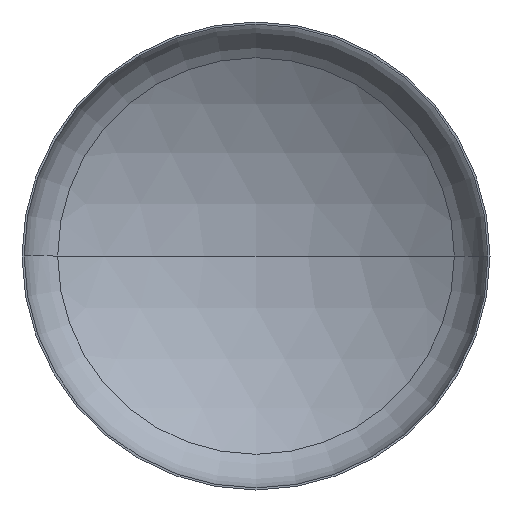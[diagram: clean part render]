
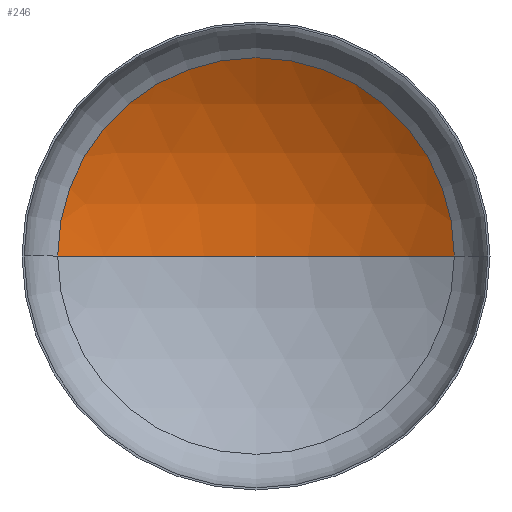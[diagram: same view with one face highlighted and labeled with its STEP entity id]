
A CAD part, front view. The second image highlights one B-rep face of the part: STEP entity #246.
In plain terms, the highlighted spherical face has radius 1440 mm.
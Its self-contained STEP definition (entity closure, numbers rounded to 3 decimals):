
#7 = AXIS2_PLACEMENT_3D ( 'NONE', #372, #230, #393 ) ;
#21 = EDGE_LOOP ( 'NONE', ( #192, #121, #92 ) ) ;
#22 = AXIS2_PLACEMENT_3D ( 'NONE', #364, #276, #168 ) ;
#29 = VERTEX_POINT ( 'NONE', #254 ) ;
#48 = VERTEX_POINT ( 'NONE', #345 ) ;
#81 = VERTEX_POINT ( 'NONE', #242 ) ;
#82 = AXIS2_PLACEMENT_3D ( 'NONE', #193, #187, #247 ) ;
#92 = ORIENTED_EDGE ( 'NONE', *, *, #376, .T. ) ;
#121 = ORIENTED_EDGE ( 'NONE', *, *, #374, .T. ) ;
#148 = AXIS2_PLACEMENT_3D ( 'NONE', #321, #323, #177 ) ;
#151 = CIRCLE ( 'NONE', #148, 762.644 ) ;
#154 = CIRCLE ( 'NONE', #22, 1440. ) ;
#166 = FACE_OUTER_BOUND ( 'NONE', #21, .T. ) ;
#168 = DIRECTION ( 'NONE',  ( 1., 0., 0. ) ) ;
#177 = DIRECTION ( 'NONE',  ( 1., 0., 0. ) ) ;
#187 = DIRECTION ( 'NONE',  ( 0., 0., -1. ) ) ;
#192 = ORIENTED_EDGE ( 'NONE', *, *, #354, .F. ) ;
#193 = CARTESIAN_POINT ( 'NONE',  ( 0., -963.198, 0. ) ) ;
#230 = DIRECTION ( 'NONE',  ( 0., 0., -1. ) ) ;
#242 = CARTESIAN_POINT ( 'NONE',  ( 0., 476.802, 0. ) ) ;
#246 = ADVANCED_FACE ( 'NONE', ( #166 ), #406, .F. ) ;
#247 = DIRECTION ( 'NONE',  ( -1., 0., 0. ) ) ;
#254 = CARTESIAN_POINT ( 'NONE',  ( 762.644, 258.266, 0. ) ) ;
#276 = DIRECTION ( 'NONE',  ( 0., 0., 1. ) ) ;
#321 = CARTESIAN_POINT ( 'NONE',  ( 0., 258.266, 0. ) ) ;
#323 = DIRECTION ( 'NONE',  ( 0., -1., 0. ) ) ;
#337 = CIRCLE ( 'NONE', #7, 1440. ) ;
#345 = CARTESIAN_POINT ( 'NONE',  ( -762.644, 258.266, 0. ) ) ;
#354 = EDGE_CURVE ( 'NONE', #81, #48, #154, .T. ) ;
#364 = CARTESIAN_POINT ( 'NONE',  ( 0., -963.198, 0. ) ) ;
#372 = CARTESIAN_POINT ( 'NONE',  ( 0., -963.198, 0. ) ) ;
#374 = EDGE_CURVE ( 'NONE', #81, #29, #337, .T. ) ;
#376 = EDGE_CURVE ( 'NONE', #29, #48, #151, .T. ) ;
#393 = DIRECTION ( 'NONE',  ( -1., 0., 0. ) ) ;
#406 = SPHERICAL_SURFACE ( 'NONE', #82, 1440. ) ;
